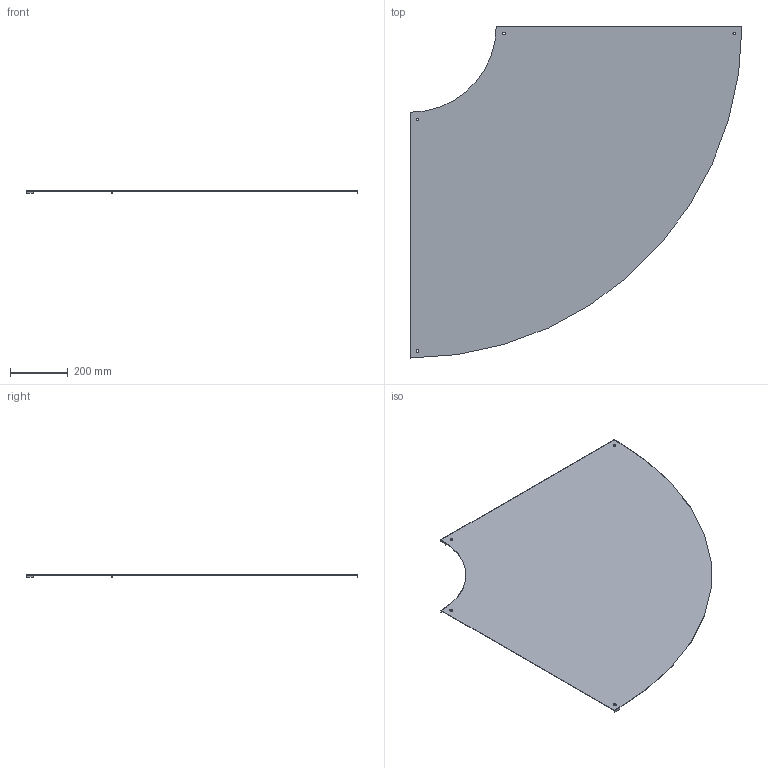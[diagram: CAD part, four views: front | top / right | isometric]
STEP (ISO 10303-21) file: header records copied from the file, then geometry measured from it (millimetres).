
FILE_DESCRIPTION(/* description */ ('','CAx-IF Rec.Pracs.---Representation and Presentation of Product Manufacturing Information (PMI)---4.0---2014-10-13'),/* implementation_level */ '2;1');
FILE_NAME(/* name */ 'Eurostrut_EFBC800-90-300_Cover Bend 90 for Cable Ladder ECL.step',/* time_stamp */ '2026-09-10T08:56:03+02:00',/* author */ (''),/* organization */ (''),/* preprocessor_version */ 'ST-DEVELOPER v20.1',/* originating_system */ 'Autodesk Revit 2027 27.2.0.39',/* authorisation */ '');
FILE_SCHEMA (('AP242_MANAGED_MODEL_BASED_3D_ENGINEERING_MIM_LF { 1 0 10303 442 2 1 4 }'));
Length unit declared in the file: millimetre
Products named in the file (5): TopLevelAssembly; Sweep; Sweep_1; Joined Solid Geometry; Joined Solid Geometry_1
Assembly tree (4 placements, depth 2):
  TopLevelAssembly
    Sweep
    Sweep_1
    Joined Solid Geometry
    Joined Solid Geometry_1
Bounding box: 1152.5 x 1152.5 x 9 mm (x, y, z)
Volume: 1460388 mm3; surface area: 1953846.3 mm2
Topology: 9 solids, 9 shells, 66 faces, 144 edges, 96 vertices
Faces by surface type: plane 48, cylinder 18
Entity records: 1904 total; most frequent: DIRECTION 330, CARTESIAN_POINT 315, ORIENTED_EDGE 288, EDGE_CURVE 144, AXIS2_PLACEMENT_3D 111, LINE 108, VECTOR 108, VERTEX_POINT 96
